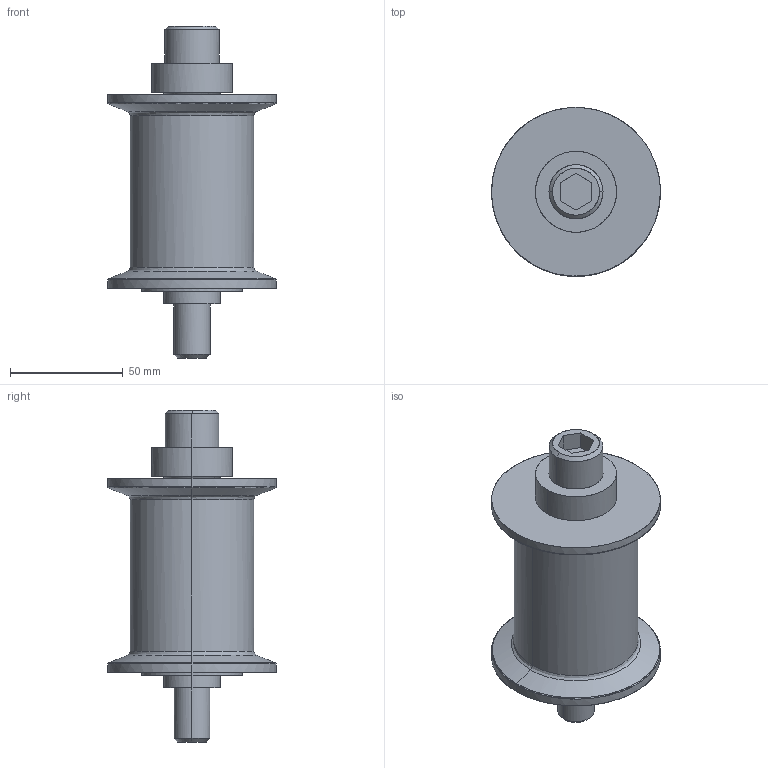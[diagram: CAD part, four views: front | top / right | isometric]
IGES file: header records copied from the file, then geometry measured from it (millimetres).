
Global section: file name: E:\UnigraphicsGraphicData\MISUMI_PRESS-PARTS\IGES\3d_egdrt55-70_03732_r00.igs; native system: NX V5.0; preprocessor: UGS NX IGES V5.0; author: MISUMI; date: 20110105.160613; units: millimetre
Bounding box: 75 x 75 x 147.5 mm (x, y, z)
Surface area: 52255 mm2 (no closed solid volume)
Topology: 0 solids, 0 shells, 81 faces, 612 edges, 612 vertices
Faces by surface type: bspline 81
